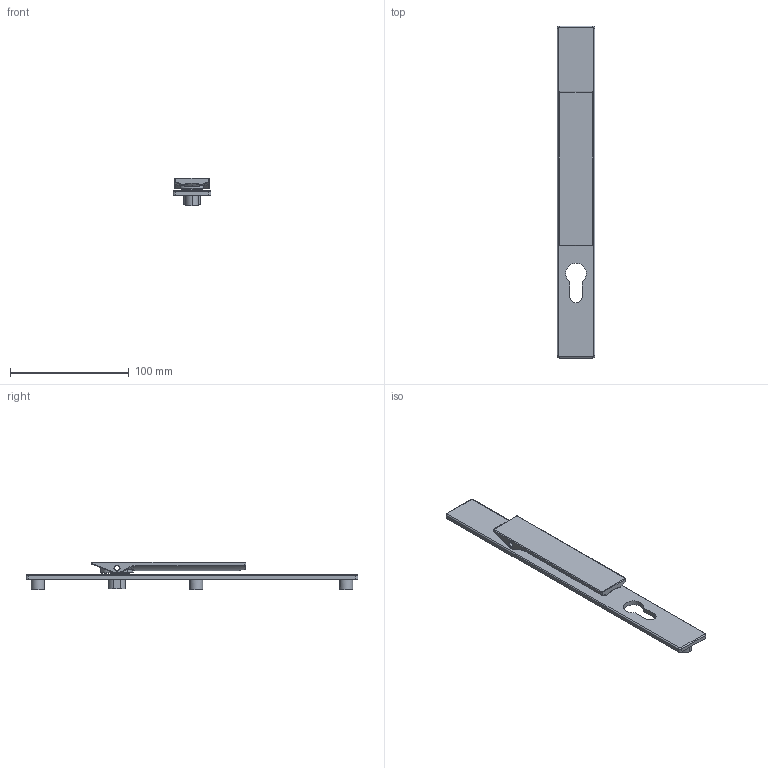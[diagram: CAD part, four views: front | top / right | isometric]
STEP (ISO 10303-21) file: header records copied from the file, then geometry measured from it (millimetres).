
FILE_DESCRIPTION (( 'STEP AP203' ), '1' );
FILE_NAME ('TPL-SS-005-C 23Apr2026.STEP', '2026-04-22T23:11:26', ( '' ), ( '' ), 'SwSTEP 2.0', 'SolidWorks 2023', '' );
FILE_SCHEMA (( 'CONFIG_CONTROL_DESIGN' ));
Length unit declared in the file: millimetre
Products named in the file (5): Copy of LKC-585 Rotator body zinc - simplified^TPGen2 handle keyed external SS - simplified; TPL-SS-005-C 23Apr2026; Copy of LKC-506 Swing handle SS - simplified^TPGen2 handle keyed external SS - simplified; Copy of LKC-584 Pivot body zinc - simplified^TPGen2 handle keyed external SS - simplified; Copy of Escutcheon plate keyed external 280mm - simplified^TPGen2 handle keyed external SS - simplified
Assembly tree (4 placements, depth 2):
  TPL-SS-005-C 23Apr2026
    Copy of Escutcheon plate keyed external 280mm - simplified^TPGen2 handle keyed external SS - simplified
    Copy of LKC-584 Pivot body zinc - simplified^TPGen2 handle keyed external SS - simplified
    Copy of LKC-585 Rotator body zinc - simplified^TPGen2 handle keyed external SS - simplified
    Copy of LKC-506 Swing handle SS - simplified^TPGen2 handle keyed external SS - simplified
Bounding box: 32 x 280 x 23.45 mm (x, y, z)
Volume: 58905.1 mm3; surface area: 33915.3 mm2
Topology: 4 solids, 7 shells, 374 faces, 932 edges, 575 vertices
Faces by surface type: cylinder 177, plane 91, bspline 44, torus 36, cone 24, sphere 2
Entity records: 12687 total; most frequent: CARTESIAN_POINT 3368, DIRECTION 1933, ORIENTED_EDGE 1848, EDGE_CURVE 924, AXIS2_PLACEMENT_3D 792, VERTEX_POINT 575, CIRCLE 455, EDGE_LOOP 403
